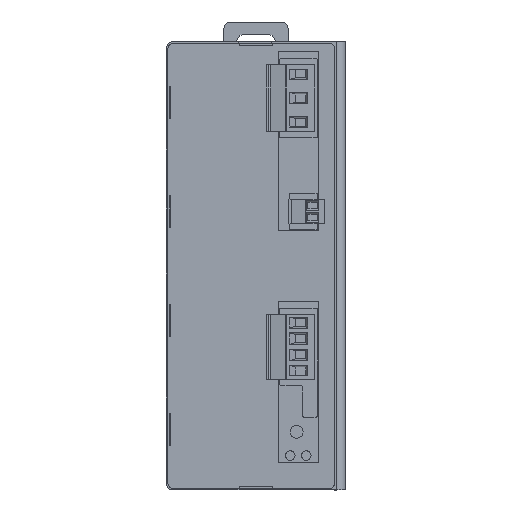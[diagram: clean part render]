
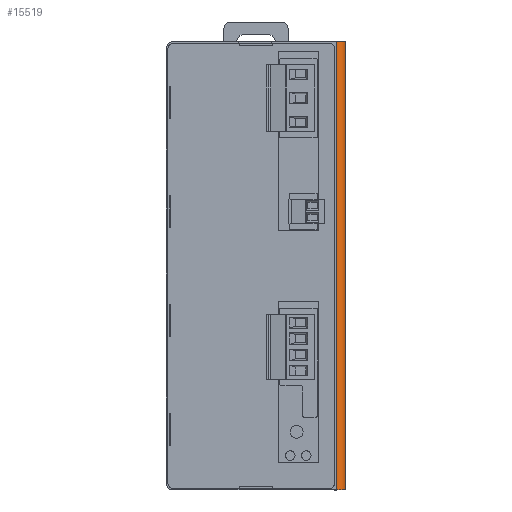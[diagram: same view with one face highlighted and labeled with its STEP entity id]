
A CAD part, left-side view. The second image highlights one B-rep face of the part: STEP entity #15519.
In plain terms, the highlighted cylindrical face has radius 3 mm (diameter 6 mm), a partial arc.
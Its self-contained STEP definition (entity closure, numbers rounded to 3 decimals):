
#3999 = CARTESIAN_POINT ( 'NONE',  ( -55.5, -28., 70. ) ) ;
#8719 = DIRECTION ( 'NONE',  ( 1., 0., 0. ) ) ;
#8739 = DIRECTION ( 'NONE',  ( 0., 0., -1. ) ) ;
#8874 = CARTESIAN_POINT ( 'NONE',  ( -55.5, -25., -70. ) ) ;
#10014 = DIRECTION ( 'NONE',  ( 1., 0., 0. ) ) ;
#10037 = DIRECTION ( 'NONE',  ( 0., 0., 1. ) ) ;
#10168 = CARTESIAN_POINT ( 'NONE',  ( -55.5, -25., 70. ) ) ;
#15088 = VECTOR ( 'NONE', #89622, 1000. ) ;
#15519 = ADVANCED_FACE ( 'NONE', ( #51465 ), #117624, .T. ) ;
#16896 = EDGE_CURVE ( 'NONE', #75174, #70685, #26950, .T. ) ;
#17659 = EDGE_CURVE ( 'NONE', #75174, #65086, #120346, .T. ) ;
#17677 = EDGE_CURVE ( 'NONE', #90689, #70685, #94439, .T. ) ;
#18415 = EDGE_CURVE ( 'NONE', #65086, #90689, #93927, .T. ) ;
#26950 = LINE ( 'NONE', #49345, #50167 ) ;
#41348 = CARTESIAN_POINT ( 'NONE',  ( -58.5, -25., -70. ) ) ;
#49345 = CARTESIAN_POINT ( 'NONE',  ( -58.5, -25., -70. ) ) ;
#49748 = DIRECTION ( 'NONE',  ( 0., 0., -1. ) ) ;
#50167 = VECTOR ( 'NONE', #49748, 1000. ) ;
#51465 = FACE_OUTER_BOUND ( 'NONE', #81633, .T. ) ;
#60766 = CARTESIAN_POINT ( 'NONE',  ( -58.5, -25., 70. ) ) ;
#65086 = VERTEX_POINT ( 'NONE', #3999 ) ;
#70685 = VERTEX_POINT ( 'NONE', #41348 ) ;
#71226 = ORIENTED_EDGE ( 'NONE', *, *, #17677, .F. ) ;
#74573 = ORIENTED_EDGE ( 'NONE', *, *, #18415, .F. ) ;
#75174 = VERTEX_POINT ( 'NONE', #60766 ) ;
#81633 = EDGE_LOOP ( 'NONE', ( #125540, #101623, #71226, #74573 ) ) ;
#89461 = CARTESIAN_POINT ( 'NONE',  ( -55.5, -28., 2.4 ) ) ;
#89622 = DIRECTION ( 'NONE',  ( 0., 0., -1. ) ) ;
#90056 = AXIS2_PLACEMENT_3D ( 'NONE', #8874, #8739, #8719 ) ;
#90689 = VERTEX_POINT ( 'NONE', #103017 ) ;
#91174 = AXIS2_PLACEMENT_3D ( 'NONE', #10168, #10037, #10014 ) ;
#93927 = LINE ( 'NONE', #89461, #15088 ) ;
#94439 = CIRCLE ( 'NONE', #90056, 3. ) ;
#101623 = ORIENTED_EDGE ( 'NONE', *, *, #16896, .T. ) ;
#103017 = CARTESIAN_POINT ( 'NONE',  ( -55.5, -28., -70. ) ) ;
#113316 = AXIS2_PLACEMENT_3D ( 'NONE', #122071, #122479, #121224 ) ;
#117624 = CYLINDRICAL_SURFACE ( 'NONE', #113316, 3. ) ;
#120346 = CIRCLE ( 'NONE', #91174, 3. ) ;
#121224 = DIRECTION ( 'NONE',  ( 1., 0., 0. ) ) ;
#122071 = CARTESIAN_POINT ( 'NONE',  ( -55.5, -25., -70. ) ) ;
#122479 = DIRECTION ( 'NONE',  ( 0., 0., 1. ) ) ;
#125540 = ORIENTED_EDGE ( 'NONE', *, *, #17659, .F. ) ;
